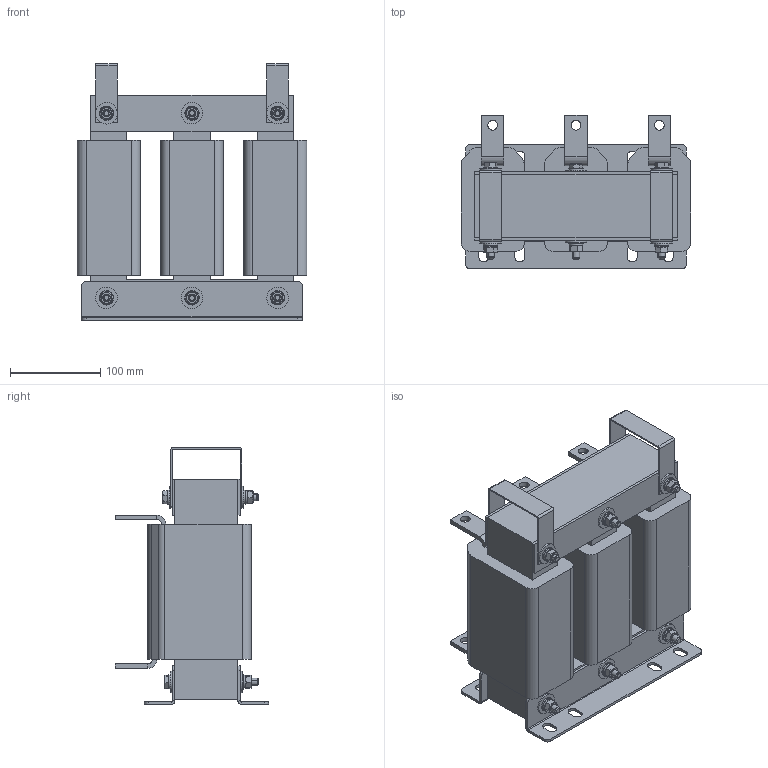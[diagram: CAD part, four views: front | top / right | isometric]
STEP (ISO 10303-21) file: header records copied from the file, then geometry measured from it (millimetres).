
FILE_DESCRIPTION (( 'STEP AP203' ), '1' );
FILE_NAME ('Ñåòåâîé äðîññåëü _ ISF-132_256-4.STEP', '2026-02-16T13:16:49', ( '' ), ( '' ), 'SwSTEP 2.0', 'SolidWorks 2021', '' );
FILE_SCHEMA (( 'CONFIG_CONTROL_DESIGN' ));
Length unit declared in the file: millimetre
Products named in the file (14): 栫謱毿膻獥132; Øàéáà ïðóæèííàÿ DIN 127 (A)_Œ8; 咈櫡_132; Êàòóøêà ñ êëåììàìè_132; Ñêîáà òàêåëàæíàÿ_132; Øàéáà ïëîñêàÿ DIN 125 (A)_Œ8; Êëåììà âåðõíÿÿ; Ïëàñòèíà ïðèæèìíàÿ_132; 忺覷齆趌132; Ñåòåâîé äðîññåëü _ ISF-132_256-4; Áîëò DIN 933_Œ8å100; Ãàéêà DIN 934_Œ8; Êëåììà íèæíÿÿ; Øàéáà ïëîñêàÿ DIN 9021_Œ8 ¯®«¨ ¬¨¤
Assembly tree (55 placements, depth 3):
  Ñåòåâîé äðîññåëü _ ISF-132_256-4
    栫謱毿膻獥132
    咈櫡_132  x2
    Êàòóøêà ñ êëåììàìè_132  x3
      忺覷齆趌132
      Êëåììà íèæíÿÿ
      Êëåììà âåðõíÿÿ
    Ïëàñòèíà ïðèæèìíàÿ_132  x2
    Ñêîáà òàêåëàæíàÿ_132  x2
    Øàéáà ïëîñêàÿ DIN 9021_Œ8 ¯®«¨ ¬¨¤  x12
    Øàéáà ïëîñêàÿ DIN 125 (A)_Œ8  x12
    Øàéáà ïðóæèííàÿ DIN 127 (A)_Œ8  x6
    Ãàéêà DIN 934_Œ8  x6
    Áîëò DIN 933_Œ8å100  x6
Bounding box: 255 x 170 x 285 mm (x, y, z)
Volume: 5134059.1 mm3; surface area: 694367.5 mm2
Topology: 58 solids, 58 shells, 896 faces, 2016 edges, 1254 vertices
Faces by surface type: plane 420, cylinder 272, cone 192, torus 12
Entity records: 9904 total; most frequent: CARTESIAN_POINT 1455, DIRECTION 1303, ORIENTED_EDGE 1124, EDGE_CURVE 562, AXIS2_PLACEMENT_3D 481, VERTEX_POINT 353, VECTOR 341, LINE 341
